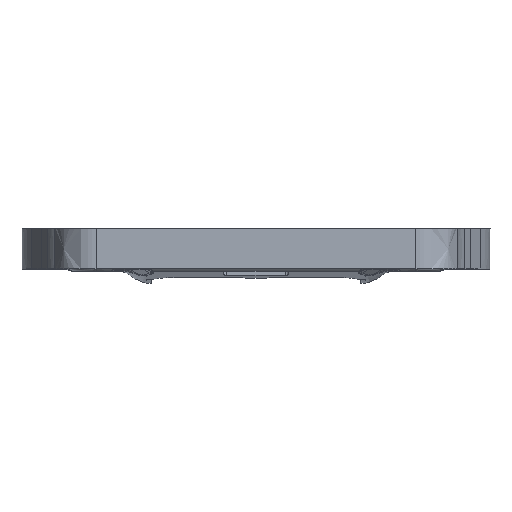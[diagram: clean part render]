
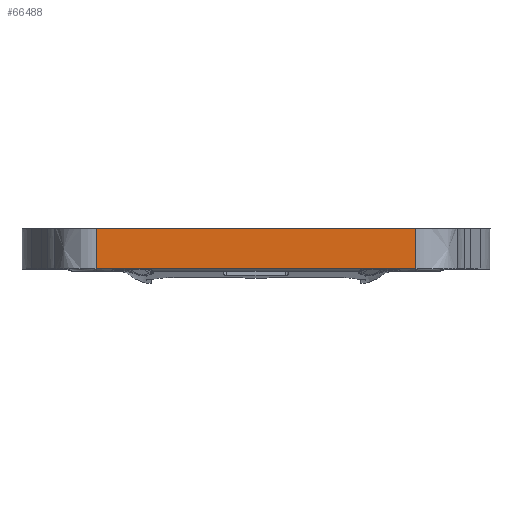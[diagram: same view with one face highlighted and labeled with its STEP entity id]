
A CAD part, left-side view. The second image highlights one B-rep face of the part: STEP entity #66488.
In plain terms, the highlighted planar face has unit normal (-1, 0, 0).
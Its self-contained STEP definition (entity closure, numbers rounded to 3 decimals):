
#66435=VECTOR('Line Direction',#66434,1.) ;
#66465=VECTOR('Line Direction',#66464,1.) ;
#66472=VECTOR('Line Direction',#66471,1.) ;
#66479=VECTOR('Line Direction',#66478,1.) ;
#66434=DIRECTION('Vector Direction',(0.,0.,1.)) ;
#66459=DIRECTION('Axis2P3D Direction',(-1.,0.,0.)) ;
#66460=DIRECTION('Axis2P3D XDirection',(0.,-1.,0.)) ;
#66464=DIRECTION('Vector Direction',(0.,-1.,0.)) ;
#66471=DIRECTION('Vector Direction',(0.,0.,1.)) ;
#66478=DIRECTION('Vector Direction',(0.,-1.,0.)) ;
#66430=CARTESIAN_POINT('Vertex',(688.174,-568.252,392.346)) ;
#66433=CARTESIAN_POINT('Line Origine',(688.174,-568.252,404.346)) ;
#66437=CARTESIAN_POINT('Vertex',(688.175,-568.252,429.346)) ;
#66458=CARTESIAN_POINT('Axis2P3D Location',(688.174,-568.252,392.346)) ;
#66463=CARTESIAN_POINT('Line Origine',(688.174,-641.507,392.346)) ;
#66467=CARTESIAN_POINT('Vertex',(688.175,-861.27,392.346)) ;
#66470=CARTESIAN_POINT('Line Origine',(688.175,-861.27,404.346)) ;
#66474=CARTESIAN_POINT('Vertex',(688.176,-861.271,429.346)) ;
#66477=CARTESIAN_POINT('Line Origine',(688.175,-641.507,429.346)) ;
#66461=AXIS2_PLACEMENT_3D('Plane Axis2P3D',#66458,#66459,#66460) ;
#66439=EDGE_CURVE('',#66431,#66438,#66436,.T.) ;
#66469=EDGE_CURVE('',#66468,#66431,#66466,.F.) ;
#66476=EDGE_CURVE('',#66468,#66475,#66473,.T.) ;
#66481=EDGE_CURVE('',#66475,#66438,#66480,.F.) ;
#66462=PLANE('',#66461) ;
#66483=ORIENTED_EDGE('',*,*,#66439,.F.) ;
#66484=ORIENTED_EDGE('',*,*,#66469,.F.) ;
#66485=ORIENTED_EDGE('',*,*,#66476,.T.) ;
#66486=ORIENTED_EDGE('',*,*,#66481,.T.) ;
#66436=LINE('Line',#66433,#66435) ;
#66466=LINE('Line',#66463,#66465) ;
#66473=LINE('Line',#66470,#66472) ;
#66480=LINE('Line',#66477,#66479) ;
#66488=ADVANCED_FACE('\X2\5EA776C6\X0\-\X2\57FA5EA7\X0\',(#66487),#66462,.T.) ;
#66431=VERTEX_POINT('',#66430) ;
#66438=VERTEX_POINT('',#66437) ;
#66468=VERTEX_POINT('',#66467) ;
#66475=VERTEX_POINT('',#66474) ;
#66482=EDGE_LOOP('',(#66483,#66484,#66485,#66486)) ;
#66487=FACE_OUTER_BOUND('',#66482,.T.) ;
